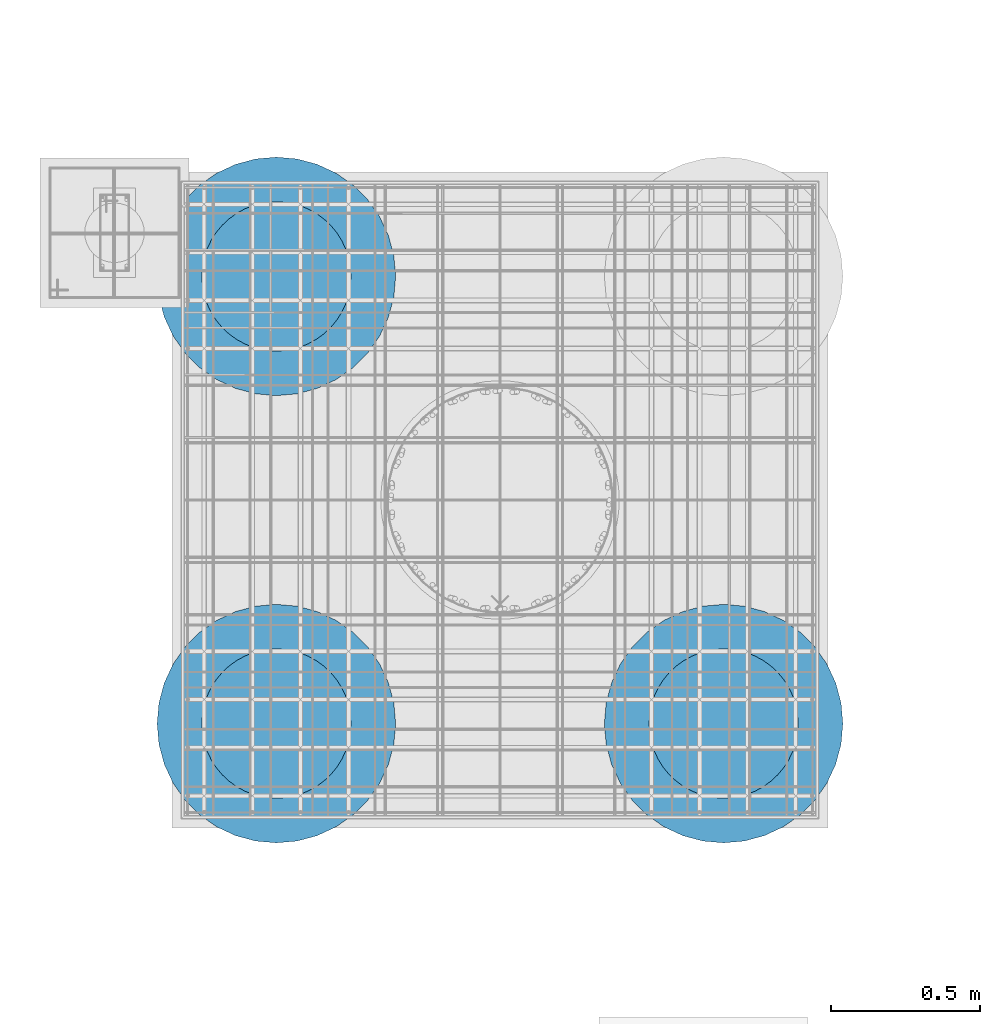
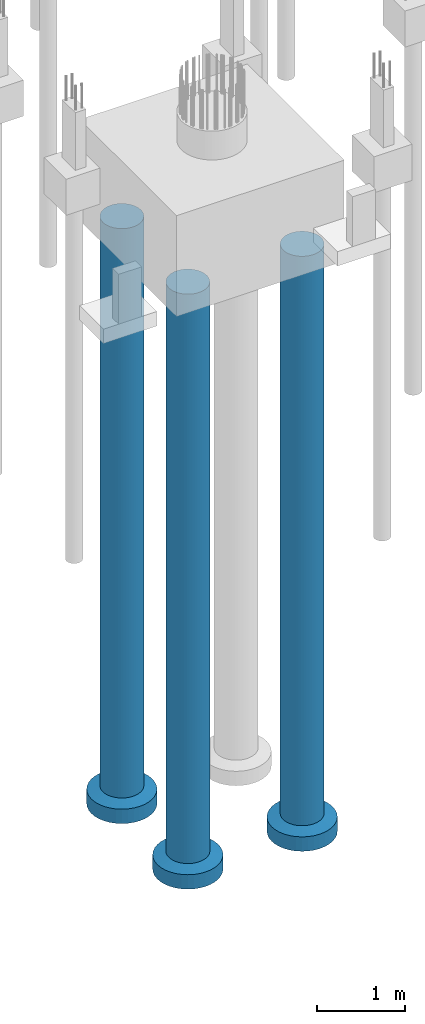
# One storey, part 117 of 119: 3 piles.
"""IFC4 building model written with IfcOpenShell, lengths in centimetres."""

from ifc_helpers import new_model, si_unit, derived_unit, frame, origin_with_axes, origin_2d_with_axis, place, context, project, spatial, circle, extrude, faceted_brep, material, element, save


model = new_model("IFC4")

# Units and contexts
model_context = context("Model", 3, precision=1e-05, world=origin_with_axes(), identifier="Body")
ifc_project = project(units=[si_unit("LENGTHUNIT", "METRE", prefix="CENTI"), si_unit("VOLUMEUNIT", "CUBIC_METRE"), si_unit("AREAUNIT", "SQUARE_METRE"), si_unit("POWERUNIT", "WATT"), si_unit("LUMINOUSFLUXUNIT", "LUMEN"), si_unit("ELECTRICCURRENTUNIT", "AMPERE"), si_unit("PRESSUREUNIT", "PASCAL", prefix="KILO"), si_unit("MASSUNIT", "GRAM", prefix="KILO"), si_unit("PLANEANGLEUNIT", "RADIAN"), derived_unit("VOLUMETRICFLOWRATEUNIT", [(si_unit("LENGTHUNIT", "METRE"), 3), (si_unit("TIMEUNIT", "SECOND"), -1)])], contexts=[model_context])

# Site, building, storey
site_placement = place(None, frame((-4000.0, 0.0, 0.0), z_axis=(0.0, 0.0, 1.0), x_axis=(1.0, 0.0, 0.0)))
site = spatial("IfcSite", under=ifc_project, at=site_placement, Name="PADRÃO")
building_placement = place(site_placement, frame((0.0, 0.0, -14.0)))
building = spatial("IfcBuilding", under=site, at=building_placement, Name="CRECHE PRÉ-ESCOLA TIPO 2")
storey_placement = place(building_placement, origin_with_axes())
storey = spatial("IfcBuildingStorey", under=building, at=storey_placement, Name="FUNDAÇÃO", CompositionType="ELEMENT", Elevation=-14.0)

# Piles
ifc_material = material(Name="Concreto")
pile_1_placement = place(storey_placement, frame((2310.28, 304.39, -165.0), z_axis=(0.0, 0.0, 1.0), x_axis=(1.0, 0.0, 0.0)))
element("IfcPile", 1, at=pile_1_placement, inside=storey, material=ifc_material, Name="T151-1", context=model_context, shape_type="SolidModel", body=[
    extrude(circle(Radius=25.0, at=origin_2d_with_axis()), frame((0.0, 0.0, -790.0), z_axis=(0.0, 0.0, 1.0), x_axis=(1.0, 0.0, 0.0)), (0.0, 0.0, 1.0), 790.0),
    faceted_brep([(-6.94592710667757, -39.3923101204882, -815.0), (-13.6808057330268, -37.5877048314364, -815.0), (-20.0, -34.6410161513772, -815.0), (-25.7115043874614, -30.6417777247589, -815.0), (-30.6417777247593, -25.7115043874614, -815.0), (-34.6410161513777, -20.0, -815.0), (-37.5877048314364, -13.6808057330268, -815.0), (-39.3923101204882, -6.94592710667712, -815.0), (-40.0, 0.0, -815.0), (-39.3923101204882, 6.94592710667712, -815.0), (-37.5877048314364, 13.6808057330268, -815.0), (-34.6410161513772, 20.0, -815.0), (-30.6417777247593, 25.7115043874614, -815.0), (-25.7115043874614, 30.6417777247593, -815.0), (-20.0, 34.6410161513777, -815.0), (-13.6808057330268, 37.5877048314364, -815.0), (-6.94592710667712, 39.3923101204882, -815.0), (0.0, 40.0, -815.0), (6.94592710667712, 39.3923101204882, -815.0), (13.6808057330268, 37.5877048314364, -815.0), (20.0, 34.6410161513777, -815.0), (25.7115043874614, 30.6417777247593, -815.0), (30.6417777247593, 25.7115043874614, -815.0), (34.6410161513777, 20.0, -815.0), (37.5877048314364, 13.6808057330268, -815.0), (39.3923101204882, 6.94592710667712, -815.0), (40.0, 0.0, -815.0), (39.3923101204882, -6.94592710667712, -815.0), (37.5877048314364, -13.6808057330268, -815.0), (34.6410161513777, -20.0, -815.0), (30.6417777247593, -25.7115043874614, -815.0), (25.7115043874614, -30.6417777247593, -815.0), (20.0, -34.6410161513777, -815.0), (13.6808057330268, -37.5877048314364, -815.0), (6.94592710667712, -39.3923101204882, -815.0), (0.0, -40.0, -815.0), (0.0, -40.0, -795.0), (6.94592710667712, -39.3923101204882, -795.0), (13.6808057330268, -37.5877048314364, -795.0), (20.0, -34.6410161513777, -795.0), (25.7115043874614, -30.6417777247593, -795.0), (30.6417777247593, -25.7115043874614, -795.0), (34.6410161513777, -20.0, -795.0), (37.5877048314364, -13.6808057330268, -795.0), (39.3923101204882, -6.94592710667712, -795.0), (40.0, 0.0, -795.0), (39.3923101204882, 6.94592710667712, -795.0), (37.5877048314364, 13.6808057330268, -795.0), (34.6410161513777, 20.0, -795.0), (30.6417777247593, 25.7115043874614, -795.0), (25.7115043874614, 30.6417777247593, -795.0), (20.0, 34.6410161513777, -795.0), (13.6808057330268, 37.5877048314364, -795.0), (6.94592710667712, 39.3923101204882, -795.0), (0.0, 40.0, -795.0), (-6.94592710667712, 39.3923101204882, -795.0), (-13.6808057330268, 37.5877048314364, -795.0), (-20.0, 34.6410161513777, -795.0), (-25.7115043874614, 30.6417777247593, -795.0), (-30.6417777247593, 25.7115043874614, -795.0), (-34.6410161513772, 20.0, -795.0), (-37.5877048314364, 13.6808057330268, -795.0), (-39.3923101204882, 6.94592710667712, -795.0), (-40.0, 0.0, -795.0), (-39.3923101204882, -6.94592710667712, -795.0), (-37.5877048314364, -13.6808057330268, -795.0), (-34.6410161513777, -20.0, -795.0), (-30.6417777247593, -25.7115043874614, -795.0), (-25.7115043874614, -30.6417777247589, -795.0), (-20.0, -34.6410161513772, -795.0), (-13.6808057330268, -37.5877048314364, -795.0), (-6.94592710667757, -39.3923101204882, -795.0)], [[[0, 1, 2, 3, 4, 5, 6, 7, 8, 9, 10, 11, 12, 13, 14, 15, 16, 17, 18, 19, 20, 21, 22, 23, 24, 25, 26, 27, 28, 29, 30, 31, 32, 33, 34, 35]], [[36, 37, 38, 39, 40, 41, 42, 43, 44, 45, 46, 47, 48, 49, 50, 51, 52, 53, 54, 55, 56, 57, 58, 59, 60, 61, 62, 63, 64, 65, 66, 67, 68, 69, 70, 71]], [[36, 35, 37]], [[35, 34, 37]], [[37, 34, 38]], [[34, 33, 38]], [[38, 33, 39]], [[33, 32, 39]], [[39, 32, 40]], [[32, 31, 40]], [[40, 31, 41]], [[31, 30, 41]], [[41, 30, 42]], [[30, 29, 42]], [[42, 29, 43]], [[29, 28, 43]], [[43, 28, 44]], [[28, 27, 44]], [[44, 27, 45]], [[27, 26, 45]], [[45, 26, 46]], [[26, 25, 46]], [[46, 25, 47]], [[25, 24, 47]], [[47, 24, 48]], [[24, 23, 48]], [[48, 23, 49]], [[23, 22, 49]], [[49, 22, 50]], [[22, 21, 50]], [[50, 21, 51]], [[21, 20, 51]], [[51, 20, 52]], [[20, 19, 52]], [[52, 19, 53]], [[19, 18, 53]], [[53, 18, 54]], [[18, 17, 54]], [[54, 17, 55]], [[17, 16, 55]], [[55, 16, 56]], [[16, 15, 56]], [[56, 15, 57]], [[15, 14, 57]], [[57, 14, 58]], [[14, 13, 58]], [[58, 13, 59]], [[13, 12, 59]], [[59, 12, 60]], [[12, 11, 60]], [[60, 11, 61]], [[11, 10, 61]], [[61, 10, 62]], [[10, 9, 62]], [[62, 9, 63]], [[9, 8, 63]], [[63, 8, 64]], [[8, 7, 64]], [[64, 7, 65]], [[7, 6, 65]], [[65, 6, 66]], [[6, 5, 66]], [[66, 5, 67]], [[5, 4, 67]], [[67, 4, 68]], [[4, 3, 68]], [[68, 3, 69]], [[3, 2, 69]], [[69, 2, 70]], [[2, 1, 70]], [[70, 1, 71]], [[1, 0, 71]], [[71, 0, 36]], [[0, 35, 36]]]),
    faceted_brep([(-6.94592710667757, -39.3923101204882, -795.0), (-13.6808057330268, -37.5877048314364, -795.0), (-20.0, -34.6410161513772, -795.0), (-25.7115043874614, -30.6417777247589, -795.0), (-30.6417777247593, -25.7115043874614, -795.0), (-34.6410161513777, -20.0, -795.0), (-37.5877048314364, -13.6808057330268, -795.0), (-39.3923101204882, -6.94592710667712, -795.0), (-40.0, 0.0, -795.0), (-39.3923101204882, 6.94592710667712, -795.0), (-37.5877048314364, 13.6808057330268, -795.0), (-34.6410161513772, 20.0, -795.0), (-30.6417777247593, 25.7115043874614, -795.0), (-25.7115043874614, 30.6417777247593, -795.0), (-20.0, 34.6410161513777, -795.0), (-13.6808057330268, 37.5877048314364, -795.0), (-6.94592710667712, 39.3923101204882, -795.0), (0.0, 40.0, -795.0), (6.94592710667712, 39.3923101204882, -795.0), (13.6808057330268, 37.5877048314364, -795.0), (20.0, 34.6410161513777, -795.0), (25.7115043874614, 30.6417777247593, -795.0), (30.6417777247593, 25.7115043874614, -795.0), (34.6410161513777, 20.0, -795.0), (37.5877048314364, 13.6808057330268, -795.0), (39.3923101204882, 6.94592710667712, -795.0), (40.0, 0.0, -795.0), (39.3923101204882, -6.94592710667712, -795.0), (37.5877048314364, -13.6808057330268, -795.0), (34.6410161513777, -20.0, -795.0), (30.6417777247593, -25.7115043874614, -795.0), (25.7115043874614, -30.6417777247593, -795.0), (20.0, -34.6410161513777, -795.0), (13.6808057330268, -37.5877048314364, -795.0), (6.94592710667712, -39.3923101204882, -795.0), (0.0, -40.0, -795.0), (0.0, -25.0, -790.0), (4.3412044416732, -24.6201938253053, -790.0), (8.55050358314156, -23.4923155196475, -790.0), (12.5, -21.6506350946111, -790.0), (16.0696902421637, -19.1511110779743, -790.0), (19.1511110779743, -16.0696902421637, -790.0), (21.6506350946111, -12.5, -790.0), (23.4923155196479, -8.55050358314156, -790.0), (24.6201938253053, -4.3412044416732, -790.0), (25.0, 0.0, -790.0), (24.6201938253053, 4.3412044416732, -790.0), (23.4923155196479, 8.55050358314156, -790.0), (21.6506350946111, 12.5, -790.0), (19.1511110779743, 16.0696902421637, -790.0), (16.0696902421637, 19.1511110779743, -790.0), (12.5, 21.6506350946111, -790.0), (8.55050358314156, 23.4923155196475, -790.0), (4.3412044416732, 24.6201938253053, -790.0), (0.0, 25.0, -790.0), (-4.3412044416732, 24.6201938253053, -790.0), (-8.55050358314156, 23.4923155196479, -790.0), (-12.5, 21.6506350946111, -790.0), (-16.0696902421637, 19.1511110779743, -790.0), (-19.1511110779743, 16.0696902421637, -790.0), (-21.6506350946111, 12.5, -790.0), (-23.4923155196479, 8.55050358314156, -790.0), (-24.6201938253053, 4.3412044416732, -790.0), (-25.0, 0.0, -790.0), (-24.6201938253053, -4.3412044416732, -790.0), (-23.4923155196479, -8.55050358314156, -790.0), (-21.6506350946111, -12.5, -790.0), (-19.1511110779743, -16.0696902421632, -790.0), (-16.0696902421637, -19.1511110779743, -790.0), (-12.5, -21.6506350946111, -790.0), (-8.55050358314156, -23.4923155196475, -790.0), (-4.3412044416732, -24.6201938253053, -790.0)], [[[0, 1, 2, 3, 4, 5, 6, 7, 8, 9, 10, 11, 12, 13, 14, 15, 16, 17, 18, 19, 20, 21, 22, 23, 24, 25, 26, 27, 28, 29, 30, 31, 32, 33, 34, 35]], [[36, 37, 38, 39, 40, 41, 42, 43, 44, 45, 46, 47, 48, 49, 50, 51, 52, 53, 54, 55, 56, 57, 58, 59, 60, 61, 62, 63, 64, 65, 66, 67, 68, 69, 70, 71]], [[36, 35, 37]], [[35, 34, 37]], [[37, 34, 38]], [[34, 33, 38]], [[38, 33, 39]], [[33, 32, 39]], [[39, 32, 40]], [[32, 31, 40]], [[40, 31, 41]], [[31, 30, 41]], [[41, 30, 42]], [[30, 29, 42]], [[42, 29, 43]], [[29, 28, 43]], [[43, 28, 44]], [[28, 27, 44]], [[44, 27, 45]], [[27, 26, 45]], [[45, 26, 46]], [[26, 25, 46]], [[46, 25, 47]], [[25, 24, 47]], [[47, 24, 48]], [[24, 23, 48]], [[48, 23, 49]], [[23, 22, 49]], [[49, 22, 50]], [[22, 21, 50]], [[50, 21, 51]], [[21, 20, 51]], [[51, 20, 52]], [[20, 19, 52]], [[52, 19, 53]], [[19, 18, 53]], [[53, 18, 54]], [[18, 17, 54]], [[54, 17, 55]], [[17, 16, 55]], [[55, 16, 56]], [[16, 15, 56]], [[56, 15, 57]], [[15, 14, 57]], [[57, 14, 58]], [[14, 13, 58]], [[58, 13, 59]], [[13, 12, 59]], [[59, 12, 60]], [[12, 11, 60]], [[60, 11, 61]], [[11, 10, 61]], [[61, 10, 62]], [[10, 9, 62]], [[62, 9, 63]], [[9, 8, 63]], [[63, 8, 64]], [[8, 7, 64]], [[64, 7, 65]], [[7, 6, 65]], [[65, 6, 66]], [[6, 5, 66]], [[66, 5, 67]], [[5, 4, 67]], [[67, 4, 68]], [[4, 3, 68]], [[68, 3, 69]], [[3, 2, 69]], [[69, 2, 70]], [[2, 1, 70]], [[70, 1, 71]], [[1, 0, 71]], [[71, 0, 36]], [[0, 35, 36]]]),
])
pile_2_placement = place(storey_placement, frame((2310.28, 154.39, -165.0), z_axis=(0.0, 0.0, 1.0), x_axis=(1.0, 0.0, 0.0)))
element("IfcPile", 2, at=pile_2_placement, inside=storey, material=ifc_material, Name="T151-3", context=model_context, shape_type="SolidModel", body=[
    extrude(circle(Radius=25.0, at=origin_2d_with_axis()), frame((0.0, 0.0, -790.0), z_axis=(0.0, 0.0, 1.0), x_axis=(1.0, 0.0, 0.0)), (0.0, 0.0, 1.0), 790.0),
    faceted_brep([(-6.94592710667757, -39.3923101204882, -815.0), (-13.6808057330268, -37.5877048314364, -815.0), (-20.0, -34.6410161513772, -815.0), (-25.7115043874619, -30.6417777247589, -815.0), (-30.6417777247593, -25.7115043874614, -815.0), (-34.6410161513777, -20.0, -815.0), (-37.5877048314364, -13.6808057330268, -815.0), (-39.3923101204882, -6.94592710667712, -815.0), (-40.0, 0.0, -815.0), (-39.3923101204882, 6.94592710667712, -815.0), (-37.5877048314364, 13.6808057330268, -815.0), (-34.6410161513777, 20.0, -815.0), (-30.6417777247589, 25.7115043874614, -815.0), (-25.7115043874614, 30.6417777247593, -815.0), (-20.0, 34.6410161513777, -815.0), (-13.6808057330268, 37.5877048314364, -815.0), (-6.94592710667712, 39.3923101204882, -815.0), (0.0, 40.0, -815.0), (6.94592710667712, 39.3923101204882, -815.0), (13.6808057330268, 37.5877048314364, -815.0), (20.0, 34.6410161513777, -815.0), (25.7115043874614, 30.6417777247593, -815.0), (30.6417777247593, 25.7115043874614, -815.0), (34.6410161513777, 20.0, -815.0), (37.5877048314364, 13.6808057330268, -815.0), (39.3923101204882, 6.94592710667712, -815.0), (40.0, 0.0, -815.0), (39.3923101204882, -6.94592710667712, -815.0), (37.5877048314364, -13.6808057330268, -815.0), (34.6410161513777, -20.0, -815.0), (30.6417777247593, -25.7115043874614, -815.0), (25.7115043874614, -30.6417777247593, -815.0), (20.0, -34.6410161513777, -815.0), (13.6808057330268, -37.5877048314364, -815.0), (6.94592710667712, -39.3923101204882, -815.0), (0.0, -40.0, -815.0), (0.0, -40.0, -795.0), (6.94592710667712, -39.3923101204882, -795.0), (13.6808057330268, -37.5877048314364, -795.0), (20.0, -34.6410161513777, -795.0), (25.7115043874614, -30.6417777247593, -795.0), (30.6417777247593, -25.7115043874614, -795.0), (34.6410161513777, -20.0, -795.0), (37.5877048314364, -13.6808057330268, -795.0), (39.3923101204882, -6.94592710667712, -795.0), (40.0, 0.0, -795.0), (39.3923101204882, 6.94592710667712, -795.0), (37.5877048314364, 13.6808057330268, -795.0), (34.6410161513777, 20.0, -795.0), (30.6417777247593, 25.7115043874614, -795.0), (25.7115043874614, 30.6417777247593, -795.0), (20.0, 34.6410161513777, -795.0), (13.6808057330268, 37.5877048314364, -795.0), (6.94592710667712, 39.3923101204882, -795.0), (0.0, 40.0, -795.0), (-6.94592710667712, 39.3923101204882, -795.0), (-13.6808057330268, 37.5877048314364, -795.0), (-20.0, 34.6410161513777, -795.0), (-25.7115043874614, 30.6417777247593, -795.0), (-30.6417777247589, 25.7115043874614, -795.0), (-34.6410161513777, 20.0, -795.0), (-37.5877048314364, 13.6808057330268, -795.0), (-39.3923101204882, 6.94592710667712, -795.0), (-40.0, 0.0, -795.0), (-39.3923101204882, -6.94592710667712, -795.0), (-37.5877048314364, -13.6808057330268, -795.0), (-34.6410161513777, -20.0, -795.0), (-30.6417777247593, -25.7115043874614, -795.0), (-25.7115043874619, -30.6417777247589, -795.0), (-20.0, -34.6410161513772, -795.0), (-13.6808057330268, -37.5877048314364, -795.0), (-6.94592710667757, -39.3923101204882, -795.0)], [[[0, 1, 2, 3, 4, 5, 6, 7, 8, 9, 10, 11, 12, 13, 14, 15, 16, 17, 18, 19, 20, 21, 22, 23, 24, 25, 26, 27, 28, 29, 30, 31, 32, 33, 34, 35]], [[36, 37, 38, 39, 40, 41, 42, 43, 44, 45, 46, 47, 48, 49, 50, 51, 52, 53, 54, 55, 56, 57, 58, 59, 60, 61, 62, 63, 64, 65, 66, 67, 68, 69, 70, 71]], [[36, 35, 37]], [[35, 34, 37]], [[37, 34, 38]], [[34, 33, 38]], [[38, 33, 39]], [[33, 32, 39]], [[39, 32, 40]], [[32, 31, 40]], [[40, 31, 41]], [[31, 30, 41]], [[41, 30, 42]], [[30, 29, 42]], [[42, 29, 43]], [[29, 28, 43]], [[43, 28, 44]], [[28, 27, 44]], [[44, 27, 45]], [[27, 26, 45]], [[45, 26, 46]], [[26, 25, 46]], [[46, 25, 47]], [[25, 24, 47]], [[47, 24, 48]], [[24, 23, 48]], [[48, 23, 49]], [[23, 22, 49]], [[49, 22, 50]], [[22, 21, 50]], [[50, 21, 51]], [[21, 20, 51]], [[51, 20, 52]], [[20, 19, 52]], [[52, 19, 53]], [[19, 18, 53]], [[53, 18, 54]], [[18, 17, 54]], [[54, 17, 55]], [[17, 16, 55]], [[55, 16, 56]], [[16, 15, 56]], [[56, 15, 57]], [[15, 14, 57]], [[57, 14, 58]], [[14, 13, 58]], [[58, 13, 59]], [[13, 12, 59]], [[59, 12, 60]], [[12, 11, 60]], [[60, 11, 61]], [[11, 10, 61]], [[61, 10, 62]], [[10, 9, 62]], [[62, 9, 63]], [[9, 8, 63]], [[63, 8, 64]], [[8, 7, 64]], [[64, 7, 65]], [[7, 6, 65]], [[65, 6, 66]], [[6, 5, 66]], [[66, 5, 67]], [[5, 4, 67]], [[67, 4, 68]], [[4, 3, 68]], [[68, 3, 69]], [[3, 2, 69]], [[69, 2, 70]], [[2, 1, 70]], [[70, 1, 71]], [[1, 0, 71]], [[71, 0, 36]], [[0, 35, 36]]]),
    faceted_brep([(-6.94592710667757, -39.3923101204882, -795.0), (-13.6808057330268, -37.5877048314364, -795.0), (-20.0, -34.6410161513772, -795.0), (-25.7115043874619, -30.6417777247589, -795.0), (-30.6417777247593, -25.7115043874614, -795.0), (-34.6410161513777, -20.0, -795.0), (-37.5877048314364, -13.6808057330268, -795.0), (-39.3923101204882, -6.94592710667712, -795.0), (-40.0, 0.0, -795.0), (-39.3923101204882, 6.94592710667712, -795.0), (-37.5877048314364, 13.6808057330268, -795.0), (-34.6410161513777, 20.0, -795.0), (-30.6417777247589, 25.7115043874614, -795.0), (-25.7115043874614, 30.6417777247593, -795.0), (-20.0, 34.6410161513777, -795.0), (-13.6808057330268, 37.5877048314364, -795.0), (-6.94592710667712, 39.3923101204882, -795.0), (0.0, 40.0, -795.0), (6.94592710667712, 39.3923101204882, -795.0), (13.6808057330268, 37.5877048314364, -795.0), (20.0, 34.6410161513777, -795.0), (25.7115043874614, 30.6417777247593, -795.0), (30.6417777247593, 25.7115043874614, -795.0), (34.6410161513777, 20.0, -795.0), (37.5877048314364, 13.6808057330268, -795.0), (39.3923101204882, 6.94592710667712, -795.0), (40.0, 0.0, -795.0), (39.3923101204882, -6.94592710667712, -795.0), (37.5877048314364, -13.6808057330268, -795.0), (34.6410161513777, -20.0, -795.0), (30.6417777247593, -25.7115043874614, -795.0), (25.7115043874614, -30.6417777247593, -795.0), (20.0, -34.6410161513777, -795.0), (13.6808057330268, -37.5877048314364, -795.0), (6.94592710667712, -39.3923101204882, -795.0), (0.0, -40.0, -795.0), (0.0, -25.0, -790.0), (4.3412044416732, -24.6201938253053, -790.0), (8.55050358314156, -23.4923155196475, -790.0), (12.5, -21.6506350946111, -790.0), (16.0696902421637, -19.1511110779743, -790.0), (19.1511110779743, -16.0696902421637, -790.0), (21.6506350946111, -12.5, -790.0), (23.4923155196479, -8.55050358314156, -790.0), (24.6201938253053, -4.3412044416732, -790.0), (25.0, 0.0, -790.0), (24.6201938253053, 4.3412044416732, -790.0), (23.4923155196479, 8.55050358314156, -790.0), (21.6506350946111, 12.5, -790.0), (19.1511110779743, 16.0696902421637, -790.0), (16.0696902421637, 19.1511110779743, -790.0), (12.5, 21.6506350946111, -790.0), (8.55050358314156, 23.4923155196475, -790.0), (4.3412044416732, 24.6201938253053, -790.0), (0.0, 25.0, -790.0), (-4.3412044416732, 24.6201938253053, -790.0), (-8.55050358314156, 23.4923155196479, -790.0), (-12.5, 21.6506350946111, -790.0), (-16.0696902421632, 19.1511110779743, -790.0), (-19.1511110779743, 16.0696902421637, -790.0), (-21.6506350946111, 12.5, -790.0), (-23.4923155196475, 8.55050358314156, -790.0), (-24.6201938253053, 4.3412044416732, -790.0), (-25.0, 0.0, -790.0), (-24.6201938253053, -4.3412044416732, -790.0), (-23.4923155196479, -8.55050358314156, -790.0), (-21.6506350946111, -12.5, -790.0), (-19.1511110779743, -16.0696902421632, -790.0), (-16.0696902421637, -19.1511110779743, -790.0), (-12.5, -21.6506350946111, -790.0), (-8.55050358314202, -23.4923155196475, -790.0), (-4.3412044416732, -24.6201938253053, -790.0)], [[[0, 1, 2, 3, 4, 5, 6, 7, 8, 9, 10, 11, 12, 13, 14, 15, 16, 17, 18, 19, 20, 21, 22, 23, 24, 25, 26, 27, 28, 29, 30, 31, 32, 33, 34, 35]], [[36, 37, 38, 39, 40, 41, 42, 43, 44, 45, 46, 47, 48, 49, 50, 51, 52, 53, 54, 55, 56, 57, 58, 59, 60, 61, 62, 63, 64, 65, 66, 67, 68, 69, 70, 71]], [[36, 35, 37]], [[35, 34, 37]], [[37, 34, 38]], [[34, 33, 38]], [[38, 33, 39]], [[33, 32, 39]], [[39, 32, 40]], [[32, 31, 40]], [[40, 31, 41]], [[31, 30, 41]], [[41, 30, 42]], [[30, 29, 42]], [[42, 29, 43]], [[29, 28, 43]], [[43, 28, 44]], [[28, 27, 44]], [[44, 27, 45]], [[27, 26, 45]], [[45, 26, 46]], [[26, 25, 46]], [[46, 25, 47]], [[25, 24, 47]], [[47, 24, 48]], [[24, 23, 48]], [[48, 23, 49]], [[23, 22, 49]], [[49, 22, 50]], [[22, 21, 50]], [[50, 21, 51]], [[21, 20, 51]], [[51, 20, 52]], [[20, 19, 52]], [[52, 19, 53]], [[19, 18, 53]], [[53, 18, 54]], [[18, 17, 54]], [[54, 17, 55]], [[17, 16, 55]], [[55, 16, 56]], [[16, 15, 56]], [[56, 15, 57]], [[15, 14, 57]], [[57, 14, 58]], [[14, 13, 58]], [[58, 13, 59]], [[13, 12, 59]], [[59, 12, 60]], [[12, 11, 60]], [[60, 11, 61]], [[11, 10, 61]], [[61, 10, 62]], [[10, 9, 62]], [[62, 9, 63]], [[9, 8, 63]], [[63, 8, 64]], [[8, 7, 64]], [[64, 7, 65]], [[7, 6, 65]], [[65, 6, 66]], [[6, 5, 66]], [[66, 5, 67]], [[5, 4, 67]], [[67, 4, 68]], [[4, 3, 68]], [[68, 3, 69]], [[3, 2, 69]], [[69, 2, 70]], [[2, 1, 70]], [[70, 1, 71]], [[1, 0, 71]], [[71, 0, 36]], [[0, 35, 36]]]),
])
pile_3_placement = place(storey_placement, frame((2460.28, 154.39, -165.0), z_axis=(0.0, 0.0, 1.0), x_axis=(1.0, 0.0, 0.0)))
element("IfcPile", 3, at=pile_3_placement, inside=storey, material=ifc_material, Name="T151-4", context=model_context, shape_type="SolidModel", body=[
    extrude(circle(Radius=25.0, at=origin_2d_with_axis()), frame((0.0, 0.0, -790.0), z_axis=(0.0, 0.0, 1.0), x_axis=(1.0, 0.0, 0.0)), (0.0, 0.0, 1.0), 790.0),
    faceted_brep([(-6.94592710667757, -39.3923101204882, -815.0), (-13.6808057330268, -37.5877048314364, -815.0), (-20.0, -34.6410161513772, -815.0), (-25.7115043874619, -30.6417777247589, -815.0), (-30.6417777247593, -25.7115043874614, -815.0), (-34.6410161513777, -20.0, -815.0), (-37.5877048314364, -13.6808057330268, -815.0), (-39.3923101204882, -6.94592710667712, -815.0), (-40.0, 0.0, -815.0), (-39.3923101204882, 6.94592710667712, -815.0), (-37.5877048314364, 13.6808057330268, -815.0), (-34.6410161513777, 20.0, -815.0), (-30.6417777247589, 25.7115043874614, -815.0), (-25.7115043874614, 30.6417777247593, -815.0), (-20.0, 34.6410161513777, -815.0), (-13.6808057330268, 37.5877048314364, -815.0), (-6.94592710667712, 39.3923101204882, -815.0), (0.0, 40.0, -815.0), (6.94592710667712, 39.3923101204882, -815.0), (13.6808057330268, 37.5877048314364, -815.0), (20.0, 34.6410161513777, -815.0), (25.7115043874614, 30.6417777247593, -815.0), (30.6417777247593, 25.7115043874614, -815.0), (34.6410161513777, 20.0, -815.0), (37.5877048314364, 13.6808057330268, -815.0), (39.3923101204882, 6.94592710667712, -815.0), (40.0, 0.0, -815.0), (39.3923101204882, -6.94592710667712, -815.0), (37.5877048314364, -13.6808057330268, -815.0), (34.6410161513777, -20.0, -815.0), (30.6417777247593, -25.7115043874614, -815.0), (25.7115043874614, -30.6417777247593, -815.0), (20.0, -34.6410161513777, -815.0), (13.6808057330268, -37.5877048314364, -815.0), (6.94592710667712, -39.3923101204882, -815.0), (0.0, -40.0, -815.0), (0.0, -40.0, -795.0), (6.94592710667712, -39.3923101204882, -795.0), (13.6808057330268, -37.5877048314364, -795.0), (20.0, -34.6410161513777, -795.0), (25.7115043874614, -30.6417777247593, -795.0), (30.6417777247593, -25.7115043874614, -795.0), (34.6410161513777, -20.0, -795.0), (37.5877048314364, -13.6808057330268, -795.0), (39.3923101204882, -6.94592710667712, -795.0), (40.0, 0.0, -795.0), (39.3923101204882, 6.94592710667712, -795.0), (37.5877048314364, 13.6808057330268, -795.0), (34.6410161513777, 20.0, -795.0), (30.6417777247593, 25.7115043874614, -795.0), (25.7115043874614, 30.6417777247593, -795.0), (20.0, 34.6410161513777, -795.0), (13.6808057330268, 37.5877048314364, -795.0), (6.94592710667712, 39.3923101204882, -795.0), (0.0, 40.0, -795.0), (-6.94592710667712, 39.3923101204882, -795.0), (-13.6808057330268, 37.5877048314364, -795.0), (-20.0, 34.6410161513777, -795.0), (-25.7115043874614, 30.6417777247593, -795.0), (-30.6417777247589, 25.7115043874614, -795.0), (-34.6410161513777, 20.0, -795.0), (-37.5877048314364, 13.6808057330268, -795.0), (-39.3923101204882, 6.94592710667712, -795.0), (-40.0, 0.0, -795.0), (-39.3923101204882, -6.94592710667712, -795.0), (-37.5877048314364, -13.6808057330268, -795.0), (-34.6410161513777, -20.0, -795.0), (-30.6417777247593, -25.7115043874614, -795.0), (-25.7115043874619, -30.6417777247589, -795.0), (-20.0, -34.6410161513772, -795.0), (-13.6808057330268, -37.5877048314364, -795.0), (-6.94592710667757, -39.3923101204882, -795.0)], [[[0, 1, 2, 3, 4, 5, 6, 7, 8, 9, 10, 11, 12, 13, 14, 15, 16, 17, 18, 19, 20, 21, 22, 23, 24, 25, 26, 27, 28, 29, 30, 31, 32, 33, 34, 35]], [[36, 37, 38, 39, 40, 41, 42, 43, 44, 45, 46, 47, 48, 49, 50, 51, 52, 53, 54, 55, 56, 57, 58, 59, 60, 61, 62, 63, 64, 65, 66, 67, 68, 69, 70, 71]], [[36, 35, 37]], [[35, 34, 37]], [[37, 34, 38]], [[34, 33, 38]], [[38, 33, 39]], [[33, 32, 39]], [[39, 32, 40]], [[32, 31, 40]], [[40, 31, 41]], [[31, 30, 41]], [[41, 30, 42]], [[30, 29, 42]], [[42, 29, 43]], [[29, 28, 43]], [[43, 28, 44]], [[28, 27, 44]], [[44, 27, 45]], [[27, 26, 45]], [[45, 26, 46]], [[26, 25, 46]], [[46, 25, 47]], [[25, 24, 47]], [[47, 24, 48]], [[24, 23, 48]], [[48, 23, 49]], [[23, 22, 49]], [[49, 22, 50]], [[22, 21, 50]], [[50, 21, 51]], [[21, 20, 51]], [[51, 20, 52]], [[20, 19, 52]], [[52, 19, 53]], [[19, 18, 53]], [[53, 18, 54]], [[18, 17, 54]], [[54, 17, 55]], [[17, 16, 55]], [[55, 16, 56]], [[16, 15, 56]], [[56, 15, 57]], [[15, 14, 57]], [[57, 14, 58]], [[14, 13, 58]], [[58, 13, 59]], [[13, 12, 59]], [[59, 12, 60]], [[12, 11, 60]], [[60, 11, 61]], [[11, 10, 61]], [[61, 10, 62]], [[10, 9, 62]], [[62, 9, 63]], [[9, 8, 63]], [[63, 8, 64]], [[8, 7, 64]], [[64, 7, 65]], [[7, 6, 65]], [[65, 6, 66]], [[6, 5, 66]], [[66, 5, 67]], [[5, 4, 67]], [[67, 4, 68]], [[4, 3, 68]], [[68, 3, 69]], [[3, 2, 69]], [[69, 2, 70]], [[2, 1, 70]], [[70, 1, 71]], [[1, 0, 71]], [[71, 0, 36]], [[0, 35, 36]]]),
    faceted_brep([(-6.94592710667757, -39.3923101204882, -795.0), (-13.6808057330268, -37.5877048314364, -795.0), (-20.0, -34.6410161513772, -795.0), (-25.7115043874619, -30.6417777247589, -795.0), (-30.6417777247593, -25.7115043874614, -795.0), (-34.6410161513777, -20.0, -795.0), (-37.5877048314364, -13.6808057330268, -795.0), (-39.3923101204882, -6.94592710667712, -795.0), (-40.0, 0.0, -795.0), (-39.3923101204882, 6.94592710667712, -795.0), (-37.5877048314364, 13.6808057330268, -795.0), (-34.6410161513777, 20.0, -795.0), (-30.6417777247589, 25.7115043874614, -795.0), (-25.7115043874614, 30.6417777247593, -795.0), (-20.0, 34.6410161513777, -795.0), (-13.6808057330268, 37.5877048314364, -795.0), (-6.94592710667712, 39.3923101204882, -795.0), (0.0, 40.0, -795.0), (6.94592710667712, 39.3923101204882, -795.0), (13.6808057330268, 37.5877048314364, -795.0), (20.0, 34.6410161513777, -795.0), (25.7115043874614, 30.6417777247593, -795.0), (30.6417777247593, 25.7115043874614, -795.0), (34.6410161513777, 20.0, -795.0), (37.5877048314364, 13.6808057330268, -795.0), (39.3923101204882, 6.94592710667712, -795.0), (40.0, 0.0, -795.0), (39.3923101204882, -6.94592710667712, -795.0), (37.5877048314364, -13.6808057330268, -795.0), (34.6410161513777, -20.0, -795.0), (30.6417777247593, -25.7115043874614, -795.0), (25.7115043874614, -30.6417777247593, -795.0), (20.0, -34.6410161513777, -795.0), (13.6808057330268, -37.5877048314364, -795.0), (6.94592710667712, -39.3923101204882, -795.0), (0.0, -40.0, -795.0), (0.0, -25.0, -790.0), (4.3412044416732, -24.6201938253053, -790.0), (8.55050358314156, -23.4923155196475, -790.0), (12.5, -21.6506350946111, -790.0), (16.0696902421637, -19.1511110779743, -790.0), (19.1511110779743, -16.0696902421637, -790.0), (21.6506350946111, -12.5, -790.0), (23.4923155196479, -8.55050358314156, -790.0), (24.6201938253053, -4.3412044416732, -790.0), (25.0, 0.0, -790.0), (24.6201938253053, 4.3412044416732, -790.0), (23.4923155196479, 8.55050358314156, -790.0), (21.6506350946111, 12.5, -790.0), (19.1511110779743, 16.0696902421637, -790.0), (16.0696902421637, 19.1511110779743, -790.0), (12.5, 21.6506350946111, -790.0), (8.55050358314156, 23.4923155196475, -790.0), (4.3412044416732, 24.6201938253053, -790.0), (0.0, 25.0, -790.0), (-4.3412044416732, 24.6201938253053, -790.0), (-8.55050358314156, 23.4923155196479, -790.0), (-12.5, 21.6506350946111, -790.0), (-16.0696902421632, 19.1511110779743, -790.0), (-19.1511110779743, 16.0696902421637, -790.0), (-21.6506350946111, 12.5, -790.0), (-23.4923155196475, 8.55050358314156, -790.0), (-24.6201938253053, 4.3412044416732, -790.0), (-25.0, 0.0, -790.0), (-24.6201938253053, -4.3412044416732, -790.0), (-23.4923155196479, -8.55050358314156, -790.0), (-21.6506350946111, -12.5, -790.0), (-19.1511110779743, -16.0696902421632, -790.0), (-16.0696902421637, -19.1511110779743, -790.0), (-12.5, -21.6506350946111, -790.0), (-8.55050358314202, -23.4923155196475, -790.0), (-4.3412044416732, -24.6201938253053, -790.0)], [[[0, 1, 2, 3, 4, 5, 6, 7, 8, 9, 10, 11, 12, 13, 14, 15, 16, 17, 18, 19, 20, 21, 22, 23, 24, 25, 26, 27, 28, 29, 30, 31, 32, 33, 34, 35]], [[36, 37, 38, 39, 40, 41, 42, 43, 44, 45, 46, 47, 48, 49, 50, 51, 52, 53, 54, 55, 56, 57, 58, 59, 60, 61, 62, 63, 64, 65, 66, 67, 68, 69, 70, 71]], [[36, 35, 37]], [[35, 34, 37]], [[37, 34, 38]], [[34, 33, 38]], [[38, 33, 39]], [[33, 32, 39]], [[39, 32, 40]], [[32, 31, 40]], [[40, 31, 41]], [[31, 30, 41]], [[41, 30, 42]], [[30, 29, 42]], [[42, 29, 43]], [[29, 28, 43]], [[43, 28, 44]], [[28, 27, 44]], [[44, 27, 45]], [[27, 26, 45]], [[45, 26, 46]], [[26, 25, 46]], [[46, 25, 47]], [[25, 24, 47]], [[47, 24, 48]], [[24, 23, 48]], [[48, 23, 49]], [[23, 22, 49]], [[49, 22, 50]], [[22, 21, 50]], [[50, 21, 51]], [[21, 20, 51]], [[51, 20, 52]], [[20, 19, 52]], [[52, 19, 53]], [[19, 18, 53]], [[53, 18, 54]], [[18, 17, 54]], [[54, 17, 55]], [[17, 16, 55]], [[55, 16, 56]], [[16, 15, 56]], [[56, 15, 57]], [[15, 14, 57]], [[57, 14, 58]], [[14, 13, 58]], [[58, 13, 59]], [[13, 12, 59]], [[59, 12, 60]], [[12, 11, 60]], [[60, 11, 61]], [[11, 10, 61]], [[61, 10, 62]], [[10, 9, 62]], [[62, 9, 63]], [[9, 8, 63]], [[63, 8, 64]], [[8, 7, 64]], [[64, 7, 65]], [[7, 6, 65]], [[65, 6, 66]], [[6, 5, 66]], [[66, 5, 67]], [[5, 4, 67]], [[67, 4, 68]], [[4, 3, 68]], [[68, 3, 69]], [[3, 2, 69]], [[69, 2, 70]], [[2, 1, 70]], [[70, 1, 71]], [[1, 0, 71]], [[71, 0, 36]], [[0, 35, 36]]]),
])

save(model, "model.ifc")
